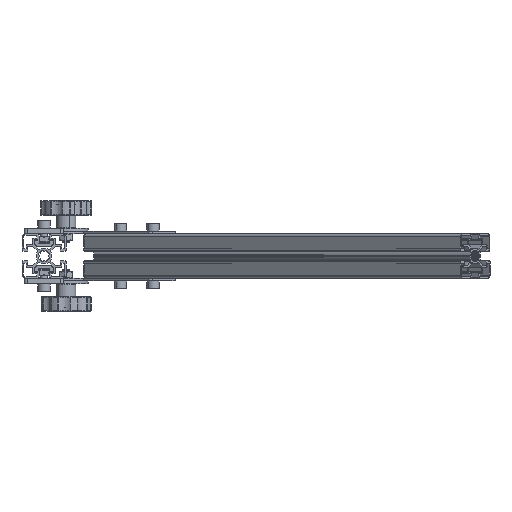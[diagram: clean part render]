
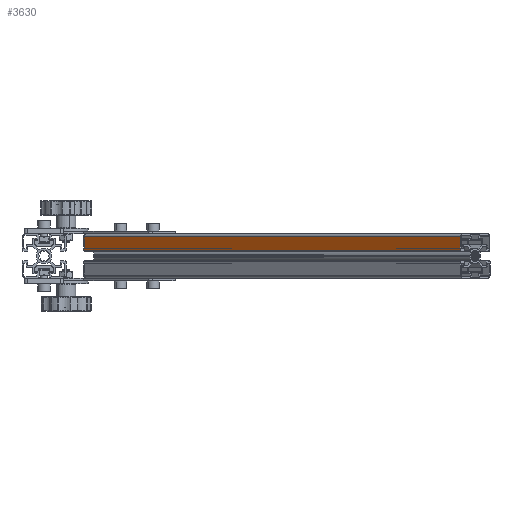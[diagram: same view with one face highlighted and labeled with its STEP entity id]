
A CAD part, front view. The second image highlights one B-rep face of the part: STEP entity #3630.
In plain terms, the highlighted planar face has unit normal (-0.674, -0.739, 0) as drawn and (-1, 0, 0) by its records, which use the part's own axes.
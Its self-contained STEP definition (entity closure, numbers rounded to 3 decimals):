
#621 = LINE ( 'NONE', #11486, #7976 ) ;
#1930 = LINE ( 'NONE', #12809, #31753 ) ;
#1949 = CARTESIAN_POINT ( 'NONE',  ( -22.374, 5.979, 260. ) ) ;
#2269 = DIRECTION ( 'NONE',  ( 0., -1., 0. ) ) ;
#2864 = LINE ( 'NONE', #13727, #4428 ) ;
#3206 = DIRECTION ( 'NONE',  ( 1., 0., 0. ) ) ;
#3630 = ADVANCED_FACE ( 'NONE', ( #5894 ), #16739, .F. ) ;
#4428 = VECTOR ( 'NONE', #24570, 1000. ) ;
#5894 = FACE_OUTER_BOUND ( 'NONE', #21879, .T. ) ;
#6396 = VERTEX_POINT ( 'NONE', #24377 ) ;
#7976 = VECTOR ( 'NONE', #22321, 1000. ) ;
#10071 = EDGE_CURVE ( 'NONE', #6396, #11702, #1930, .T. ) ;
#10307 = ORIENTED_EDGE ( 'NONE', *, *, #22948, .F. ) ;
#10933 = CARTESIAN_POINT ( 'NONE',  ( -22.374, 5.979, -260. ) ) ;
#11486 = CARTESIAN_POINT ( 'NONE',  ( -22.374, 19.379, 260. ) ) ;
#11702 = VERTEX_POINT ( 'NONE', #10933 ) ;
#12809 = CARTESIAN_POINT ( 'NONE',  ( -22.374, 19.379, -260. ) ) ;
#13727 = CARTESIAN_POINT ( 'NONE',  ( -22.374, 5.979, 260. ) ) ;
#14076 = DIRECTION ( 'NONE',  ( 0., 0., -1. ) ) ;
#14511 = ORIENTED_EDGE ( 'NONE', *, *, #10071, .T. ) ;
#15685 = ORIENTED_EDGE ( 'NONE', *, *, #28647, .F. ) ;
#15818 = LINE ( 'NONE', #26671, #29997 ) ;
#16739 = PLANE ( 'NONE',  #35046 ) ;
#17047 = VERTEX_POINT ( 'NONE', #18463 ) ;
#18132 = EDGE_CURVE ( 'NONE', #17047, #6396, #621, .T. ) ;
#18463 = CARTESIAN_POINT ( 'NONE',  ( -22.374, 19.379, 260. ) ) ;
#21879 = EDGE_LOOP ( 'NONE', ( #14511, #10307, #15685, #34618 ) ) ;
#22321 = DIRECTION ( 'NONE',  ( 0., 0., -1. ) ) ;
#22948 = EDGE_CURVE ( 'NONE', #30243, #11702, #2864, .T. ) ;
#23628 = DIRECTION ( 'NONE',  ( 0., -1., 0. ) ) ;
#24377 = CARTESIAN_POINT ( 'NONE',  ( -22.374, 19.379, -260. ) ) ;
#24570 = DIRECTION ( 'NONE',  ( 0., 0., -1. ) ) ;
#26671 = CARTESIAN_POINT ( 'NONE',  ( -22.374, 19.379, 260. ) ) ;
#27596 = CARTESIAN_POINT ( 'NONE',  ( -22.374, 19.379, 260. ) ) ;
#28647 = EDGE_CURVE ( 'NONE', #17047, #30243, #15818, .T. ) ;
#29997 = VECTOR ( 'NONE', #2269, 1000. ) ;
#30243 = VERTEX_POINT ( 'NONE', #1949 ) ;
#31753 = VECTOR ( 'NONE', #23628, 1000. ) ;
#34618 = ORIENTED_EDGE ( 'NONE', *, *, #18132, .T. ) ;
#35046 = AXIS2_PLACEMENT_3D ( 'NONE', #27596, #3206, #14076 ) ;
